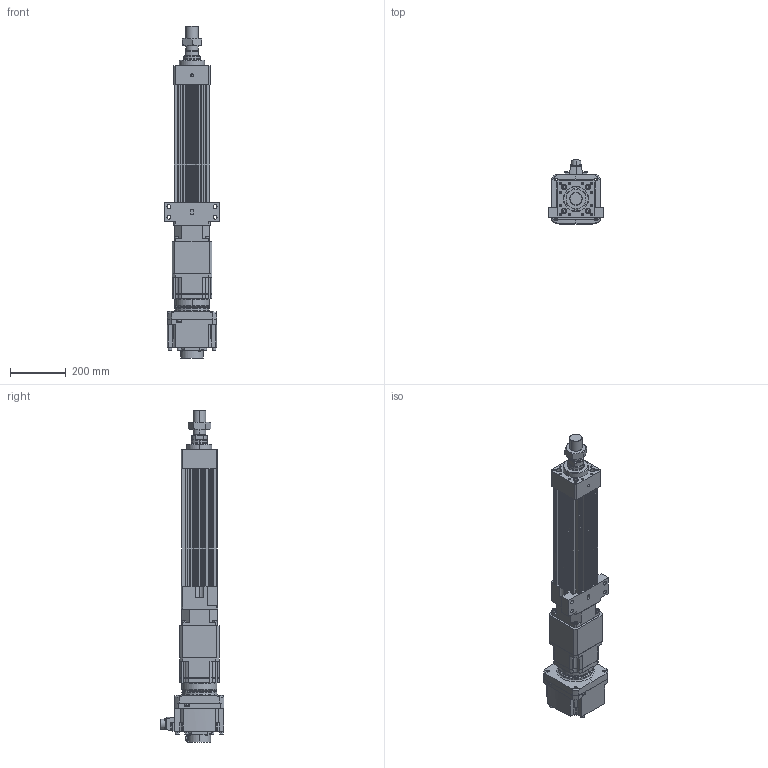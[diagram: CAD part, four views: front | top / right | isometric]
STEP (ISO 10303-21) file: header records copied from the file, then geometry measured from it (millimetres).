
FILE_DESCRIPTION (( 'STEP AP203' ), '1' );
FILE_NAME ('HES130FS(HS)-S200-W020G00-M-FFC.STEP', '2023-01-31T03:04:15', ( 'tms' ), ( '' ), 'SwSTEP 2.0', 'SolidWorks 2013', '' );
FILE_SCHEMA (( 'CONFIG_CONTROL_DESIGN' ));
Length unit declared in the file: millimetre
Products named in the file (9): P0403500801; HES130-S200-G142-FFC; HG-SR202; AB1421; HES130 ROD M ST200; P1301500001; HES130FS(HS)-S200-W020G00-M-FFC; AB142-003[HG-SR352]; M45X1.5P
Assembly tree (8 placements, depth 3):
  HES130FS(HS)-S200-W020G00-M-FFC
    HES130-S200-G142-FFC
    HES130 ROD M ST200
    M45X1.5P
    AB142-003[HG-SR352]
      AB1421
      P1301500001
      P0403500801
    HG-SR202
Bounding box: 200 x 228.85 x 1187.5 mm (x, y, z)
Volume: 10693288.9 mm3; surface area: 1336735.8 mm2
Topology: 4 solids, 22 shells, 1546 faces, 3982 edges, 2565 vertices
Faces by surface type: cylinder 694, plane 586, cone 184, bspline 76, torus 6
Entity records: 55838 total; most frequent: CARTESIAN_POINT 16862, DIRECTION 8160, ORIENTED_EDGE 7822, EDGE_CURVE 3933, AXIS2_PLACEMENT_3D 3080, VERTEX_POINT 2565, VECTOR 2000, LINE 2000
